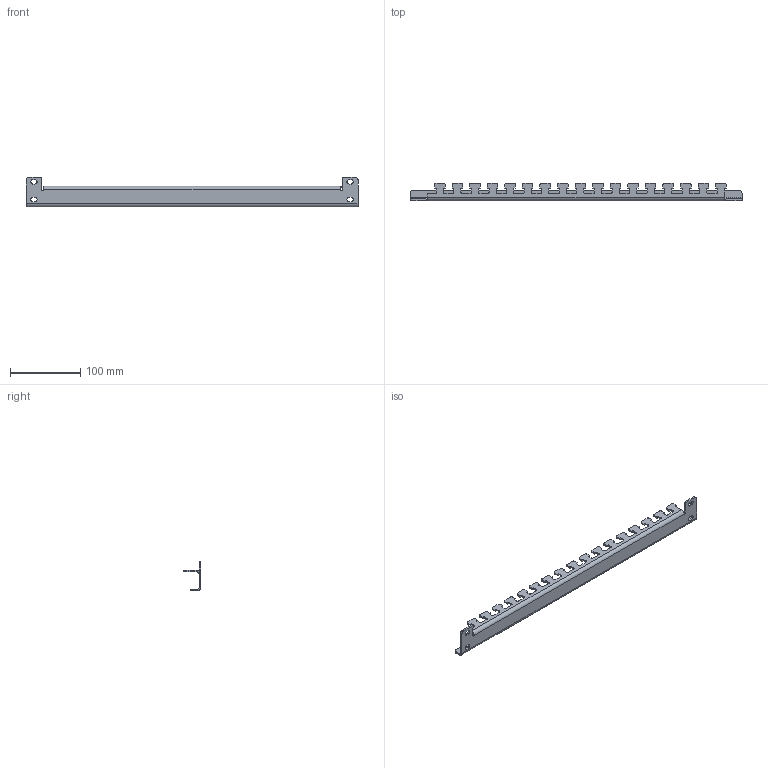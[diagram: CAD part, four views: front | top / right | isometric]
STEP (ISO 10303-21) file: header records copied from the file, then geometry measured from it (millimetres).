
FILE_DESCRIPTION (( 'STEP AP203' ), '1' );
FILE_NAME ('MG 60 Ðåéêà ãîðèçîíòàëüíàÿ íèæíÿÿ.STEP', '2012-11-26T12:18:28', ( 'system' ), ( '' ), 'SwSTEP 2.0', 'SolidWorks 2012', '' );
FILE_SCHEMA (( 'CONFIG_CONTROL_DESIGN' ));
Length unit declared in the file: millimetre
Products named in the file (1): MG 60 Ðåéêà ãîðèçîíòàëüíàÿ íèæíÿÿ
Bounding box: 472.5 x 25 x 42.53 mm (x, y, z)
Volume: 62830.7 mm3; surface area: 54795.6 mm2
Topology: 1 solids, 1 shells, 321 faces, 941 edges, 622 vertices
Faces by surface type: plane 164, cylinder 155, bspline 2
Entity records: 10824 total; most frequent: CARTESIAN_POINT 1921, DIRECTION 1883, ORIENTED_EDGE 1882, EDGE_CURVE 941, AXIS2_PLACEMENT_3D 630, VECTOR 623, LINE 623, VERTEX_POINT 622
